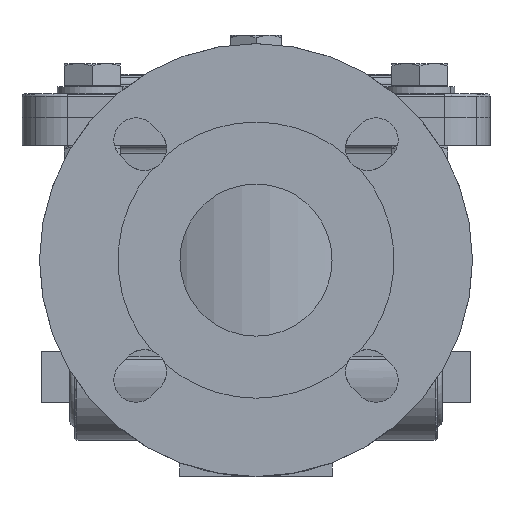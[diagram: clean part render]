
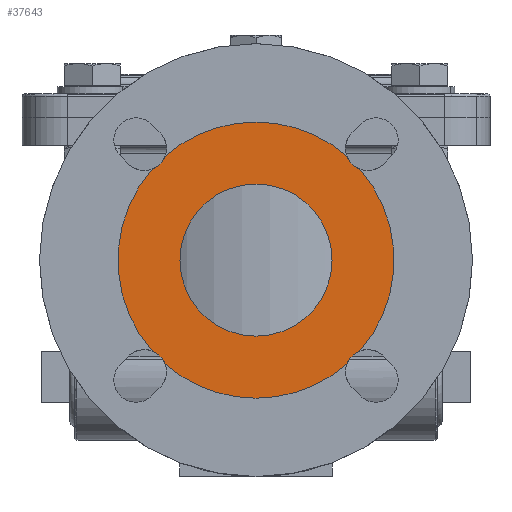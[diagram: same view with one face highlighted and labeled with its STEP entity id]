
A CAD part, left-side view. The second image highlights one B-rep face of the part: STEP entity #37643.
In plain terms, the highlighted planar face has unit normal (-1, 0, 0).
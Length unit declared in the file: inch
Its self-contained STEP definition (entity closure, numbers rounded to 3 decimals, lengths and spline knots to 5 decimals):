
#1383 = EDGE_CURVE ( 'NONE', #49810, #10461, #45406, .T. ) ;
#2288 = AXIS2_PLACEMENT_3D ( 'NONE', #13635, #18688, #54755 ) ;
#2490 = CARTESIAN_POINT ( 'NONE',  ( -4.52756, 1.80118, 0. ) ) ;
#3143 = DIRECTION ( 'NONE',  ( 0., -0.707, -0.707 ) ) ;
#3333 = AXIS2_PLACEMENT_3D ( 'NONE', #28807, #6201, #51785 ) ;
#3405 = VERTEX_POINT ( 'NONE', #27825 ) ;
#4247 = AXIS2_PLACEMENT_3D ( 'NONE', #31049, #16772, #26297 ) ;
#4262 = CARTESIAN_POINT ( 'NONE',  ( -4.52756, -1.74914, 1.52842 ) ) ;
#5386 = VERTEX_POINT ( 'NONE', #30905 ) ;
#5599 = EDGE_CURVE ( 'NONE', #27082, #3405, #42020, .T. ) ;
#6201 = DIRECTION ( 'NONE',  ( 1., 0., 0. ) ) ;
#6958 = FACE_BOUND ( 'NONE', #19799, .T. ) ;
#7625 = ORIENTED_EDGE ( 'NONE', *, *, #55505, .F. ) ;
#8442 = VERTEX_POINT ( 'NONE', #16384 ) ;
#8815 = CARTESIAN_POINT ( 'NONE',  ( -4.52756, 1.87912, -1.87912 ) ) ;
#9171 = CARTESIAN_POINT ( 'NONE',  ( -4.52756, 0., 0. ) ) ;
#9176 = DIRECTION ( 'NONE',  ( 1., 0., 0. ) ) ;
#10461 = VERTEX_POINT ( 'NONE', #46288 ) ;
#10617 = VERTEX_POINT ( 'NONE', #36278 ) ;
#11726 = DIRECTION ( 'NONE',  ( 0., 1., 0. ) ) ;
#12220 = EDGE_CURVE ( 'NONE', #14309, #10461, #41616, .T. ) ;
#12649 = DIRECTION ( 'NONE',  ( 0., 1., 0. ) ) ;
#12660 = DIRECTION ( 'NONE',  ( 1., 0., 0. ) ) ;
#12700 = CARTESIAN_POINT ( 'NONE',  ( -4.52756, 1.52842, 1.74914 ) ) ;
#13250 = DIRECTION ( 'NONE',  ( 0., 1., 0. ) ) ;
#13556 = ORIENTED_EDGE ( 'NONE', *, *, #45591, .T. ) ;
#13635 = CARTESIAN_POINT ( 'NONE',  ( -4.52756, 0., 0. ) ) ;
#14309 = VERTEX_POINT ( 'NONE', #12700 ) ;
#16183 = DIRECTION ( 'NONE',  ( 1., 0., 0. ) ) ;
#16384 = CARTESIAN_POINT ( 'NONE',  ( -4.52756, 1.27953, 0. ) ) ;
#16772 = DIRECTION ( 'NONE',  ( 1., 0., 0. ) ) ;
#17386 = CIRCLE ( 'NONE', #24057, 1.27953 ) ;
#17743 = CARTESIAN_POINT ( 'NONE',  ( -4.52756, -1.27953, 0. ) ) ;
#18071 = DIRECTION ( 'NONE',  ( 0., 1., 0. ) ) ;
#18688 = DIRECTION ( 'NONE',  ( 1., 0., 0. ) ) ;
#18933 = DIRECTION ( 'NONE',  ( 1., 0., 0. ) ) ;
#18985 = EDGE_CURVE ( 'NONE', #27082, #41022, #49606, .T. ) ;
#19176 = VERTEX_POINT ( 'NONE', #42990 ) ;
#19395 = CIRCLE ( 'NONE', #2288, 2.32283 ) ;
#19483 = EDGE_LOOP ( 'NONE', ( #28968, #55067, #32647, #50168, #47974, #13556, #22042, #31066, #49486, #7625 ) ) ;
#19799 = EDGE_LOOP ( 'NONE', ( #47842, #23913 ) ) ;
#20448 = CIRCLE ( 'NONE', #3333, 2.32283 ) ;
#20574 = AXIS2_PLACEMENT_3D ( 'NONE', #21670, #9176, #44622 ) ;
#21670 = CARTESIAN_POINT ( 'NONE',  ( -4.52756, 1.87912, 1.87912 ) ) ;
#22042 = ORIENTED_EDGE ( 'NONE', *, *, #18985, .F. ) ;
#22517 = EDGE_CURVE ( 'NONE', #10617, #28201, #20448, .T. ) ;
#22825 = DIRECTION ( 'NONE',  ( 1., 0., 0. ) ) ;
#22948 = AXIS2_PLACEMENT_3D ( 'NONE', #54083, #34998, #12649 ) ;
#23101 = CARTESIAN_POINT ( 'NONE',  ( -4.52756, 0., 0. ) ) ;
#23913 = ORIENTED_EDGE ( 'NONE', *, *, #53911, .T. ) ;
#24057 = AXIS2_PLACEMENT_3D ( 'NONE', #9171, #22825, #18071 ) ;
#24208 = EDGE_CURVE ( 'NONE', #14309, #28201, #24355, .T. ) ;
#24355 = CIRCLE ( 'NONE', #20574, 0.37402 ) ;
#25107 = AXIS2_PLACEMENT_3D ( 'NONE', #57007, #16183, #11726 ) ;
#25125 = CIRCLE ( 'NONE', #35440, 2.32283 ) ;
#25191 = CIRCLE ( 'NONE', #4247, 2.32283 ) ;
#25457 = CARTESIAN_POINT ( 'NONE',  ( -4.52756, -1.87912, 1.87912 ) ) ;
#26297 = DIRECTION ( 'NONE',  ( 0., 1., 0. ) ) ;
#26582 = CARTESIAN_POINT ( 'NONE',  ( -4.52756, 1.74914, 1.52842 ) ) ;
#26951 = DIRECTION ( 'NONE',  ( 1., 0., 0. ) ) ;
#27082 = VERTEX_POINT ( 'NONE', #41762 ) ;
#27825 = CARTESIAN_POINT ( 'NONE',  ( -4.52756, -1.74914, -1.52842 ) ) ;
#28201 = VERTEX_POINT ( 'NONE', #26582 ) ;
#28807 = CARTESIAN_POINT ( 'NONE',  ( -4.52756, 0., 0. ) ) ;
#28968 = ORIENTED_EDGE ( 'NONE', *, *, #1383, .T. ) ;
#30821 = CIRCLE ( 'NONE', #53711, 0.37402 ) ;
#30905 = CARTESIAN_POINT ( 'NONE',  ( -4.52756, -2.32283, 0. ) ) ;
#31049 = CARTESIAN_POINT ( 'NONE',  ( -4.52756, 0., 0. ) ) ;
#31066 = ORIENTED_EDGE ( 'NONE', *, *, #5599, .T. ) ;
#32647 = ORIENTED_EDGE ( 'NONE', *, *, #24208, .T. ) ;
#33715 = DIRECTION ( 'NONE',  ( -1., 0., 0. ) ) ;
#34998 = DIRECTION ( 'NONE',  ( 1., 0., 0. ) ) ;
#35440 = AXIS2_PLACEMENT_3D ( 'NONE', #52918, #12660, #13250 ) ;
#35554 = VERTEX_POINT ( 'NONE', #17743 ) ;
#36207 = EDGE_CURVE ( 'NONE', #5386, #3405, #19395, .T. ) ;
#36278 = CARTESIAN_POINT ( 'NONE',  ( -4.52756, 2.32283, 0. ) ) ;
#36811 = AXIS2_PLACEMENT_3D ( 'NONE', #25457, #43933, #3143 ) ;
#37643 = ADVANCED_FACE ( 'NONE', ( #39391, #6958 ), #38502, .T. ) ;
#37858 = CARTESIAN_POINT ( 'NONE',  ( -4.52756, -1.87912, -1.87912 ) ) ;
#38502 = PLANE ( 'NONE',  #38943 ) ;
#38675 = CARTESIAN_POINT ( 'NONE',  ( -4.52756, 1.52842, -1.74914 ) ) ;
#38943 = AXIS2_PLACEMENT_3D ( 'NONE', #2490, #33715, #51935 ) ;
#39391 = FACE_OUTER_BOUND ( 'NONE', #19483, .T. ) ;
#41022 = VERTEX_POINT ( 'NONE', #38675 ) ;
#41616 = CIRCLE ( 'NONE', #46403, 2.32283 ) ;
#41762 = CARTESIAN_POINT ( 'NONE',  ( -4.52756, -1.52842, -1.74914 ) ) ;
#42020 = CIRCLE ( 'NONE', #54407, 0.37402 ) ;
#42990 = CARTESIAN_POINT ( 'NONE',  ( -4.52756, 1.74914, -1.52842 ) ) ;
#43933 = DIRECTION ( 'NONE',  ( 1., 0., 0. ) ) ;
#44622 = DIRECTION ( 'NONE',  ( 0., -0.707, 0.707 ) ) ;
#45406 = CIRCLE ( 'NONE', #36811, 0.37402 ) ;
#45591 = EDGE_CURVE ( 'NONE', #19176, #41022, #30821, .T. ) ;
#45915 = EDGE_CURVE ( 'NONE', #8442, #35554, #46100, .T. ) ;
#46029 = EDGE_CURVE ( 'NONE', #19176, #10617, #25191, .T. ) ;
#46100 = CIRCLE ( 'NONE', #25107, 1.27953 ) ;
#46288 = CARTESIAN_POINT ( 'NONE',  ( -4.52756, -1.52842, 1.74914 ) ) ;
#46403 = AXIS2_PLACEMENT_3D ( 'NONE', #23101, #18933, #54705 ) ;
#47842 = ORIENTED_EDGE ( 'NONE', *, *, #45915, .T. ) ;
#47974 = ORIENTED_EDGE ( 'NONE', *, *, #46029, .F. ) ;
#49041 = DIRECTION ( 'NONE',  ( 0., 0.707, 0.707 ) ) ;
#49486 = ORIENTED_EDGE ( 'NONE', *, *, #36207, .F. ) ;
#49606 = CIRCLE ( 'NONE', #22948, 2.32283 ) ;
#49810 = VERTEX_POINT ( 'NONE', #4262 ) ;
#50168 = ORIENTED_EDGE ( 'NONE', *, *, #22517, .F. ) ;
#50999 = DIRECTION ( 'NONE',  ( 0., 0.707, -0.707 ) ) ;
#51785 = DIRECTION ( 'NONE',  ( 0., 1., 0. ) ) ;
#51935 = DIRECTION ( 'NONE',  ( 0., 1., 0. ) ) ;
#52918 = CARTESIAN_POINT ( 'NONE',  ( -4.52756, 0., 0. ) ) ;
#53711 = AXIS2_PLACEMENT_3D ( 'NONE', #8815, #26951, #49041 ) ;
#53911 = EDGE_CURVE ( 'NONE', #35554, #8442, #17386, .T. ) ;
#54083 = CARTESIAN_POINT ( 'NONE',  ( -4.52756, 0., 0. ) ) ;
#54407 = AXIS2_PLACEMENT_3D ( 'NONE', #37858, #55427, #50999 ) ;
#54705 = DIRECTION ( 'NONE',  ( 0., 1., 0. ) ) ;
#54755 = DIRECTION ( 'NONE',  ( 0., 1., 0. ) ) ;
#55067 = ORIENTED_EDGE ( 'NONE', *, *, #12220, .F. ) ;
#55427 = DIRECTION ( 'NONE',  ( 1., 0., 0. ) ) ;
#55505 = EDGE_CURVE ( 'NONE', #49810, #5386, #25125, .T. ) ;
#57007 = CARTESIAN_POINT ( 'NONE',  ( -4.52756, 0., 0. ) ) ;
